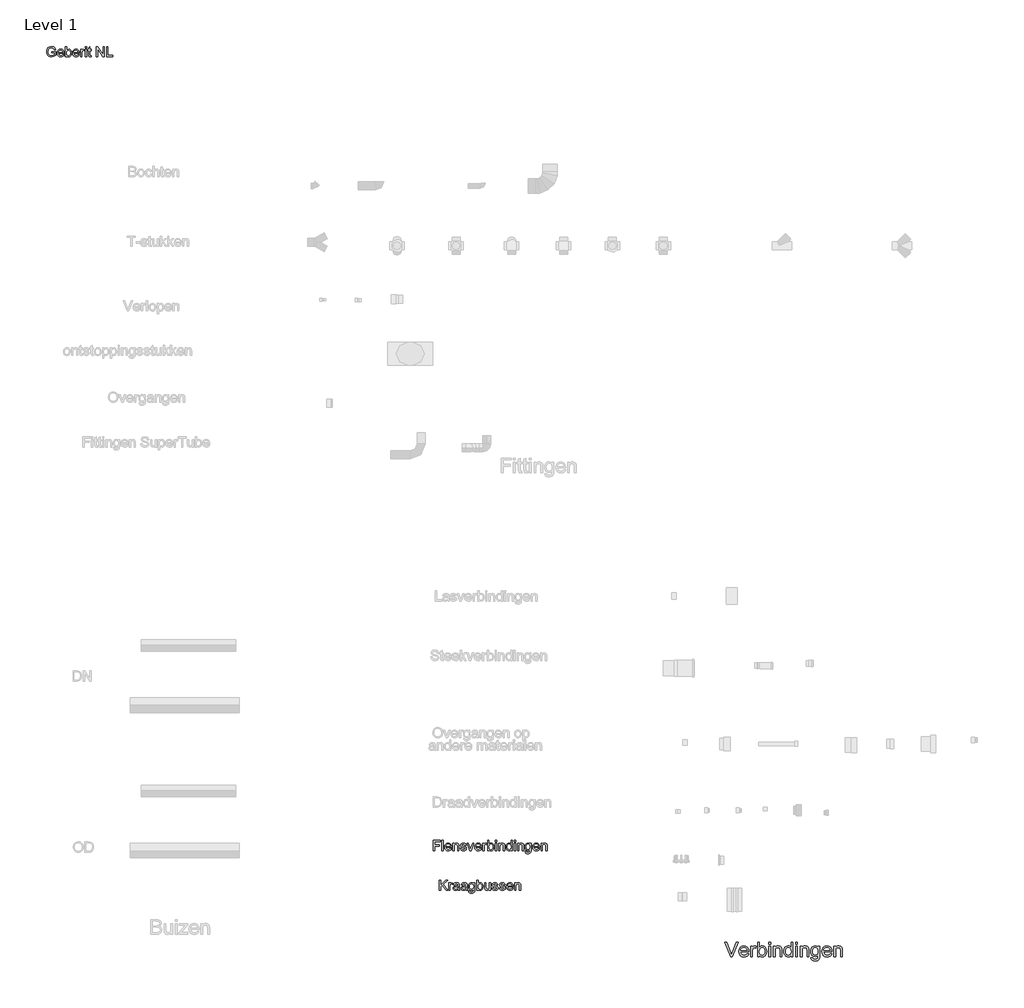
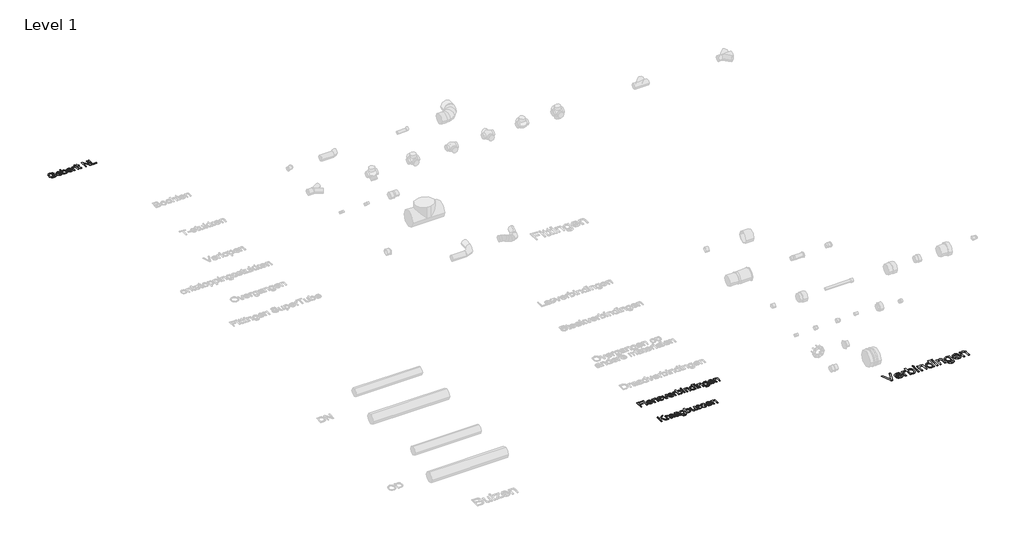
# One storey, part 4 of 9: 4 proxies.
"""IFC4 building model written with IfcOpenShell, lengths in millimetres."""

import ifcopenshell
import ifcopenshell.guid

model = None  # the IFC model being written
_history = None  # IfcOwnerHistory: only IFC2X3 demands one
_inside = {}  # id of a spatial element -> (the spatial element, [elements in it])
_under = {}  # id of a project, library or spatial element -> (it, [spatial elements below it])
_declared = {}  # id of a project -> (the project, [libraries it declares])
_typed = {}  # id of a type object -> (the type object, [elements of that type])
_made_of = {}  # id of a material, layer set ... -> (it, [elements and type objects made of it])


def new_model(schema):
    """Start an empty IFC model of exactly this schema.

    Asked for "IFC4X3", IfcOpenShell would pick the latest addendum, in which some entities
    have other attributes; the version numbers below select the first issue.
    IFC2X3 requires an IfcOwnerHistory on every rooted entity: one is made here for all.
    """
    global model, _history
    if schema == "IFC4X3":
        model = ifcopenshell.file(schema_version=(4, 3, 0, 0))
    else:
        model = ifcopenshell.file(schema=schema)
    _inside.clear()
    _under.clear()
    _declared.clear()
    _typed.clear()
    _made_of.clear()
    _history = None
    if model.schema == "IFC2X3":
        org = make("IfcOrganization", Name="unknown")
        user = make(
            "IfcPersonAndOrganization",
            ThePerson=make("IfcPerson", FamilyName="unknown"),
            TheOrganization=org,
        )
        app = make(
            "IfcApplication",
            ApplicationDeveloper=org,
            Version="unknown",
            ApplicationFullName="unknown",
            ApplicationIdentifier="unknown",
        )
        _history = make(
            "IfcOwnerHistory",
            OwningUser=user,
            OwningApplication=app,
            ChangeAction="ADDED",
            CreationDate=0,
        )
    return model


def make(cls, **values):
    """One entity of the class cls with the attributes given. An attribute that is None is left unset."""
    return model.create_entity(
        cls, **{name: value for name, value in values.items() if value is not None}
    )


def rooted(cls, **values):
    """An entity with a GlobalId (a new one), such as an element, a storey or a relation."""
    return make(cls, GlobalId=ifcopenshell.guid.new(), OwnerHistory=_history, **values)


def si_unit(unit_type, name, prefix=None):
    """IfcSIUnit, for example si_unit("LENGTHUNIT", "METRE", prefix="MILLI")."""
    return make("IfcSIUnit", UnitType=unit_type, Prefix=prefix, Name=name)


def assignment(units):
    """IfcUnitAssignment: the units of a project."""
    return None if units is None else make("IfcUnitAssignment", Units=units)


def point(xyz):
    """IfcCartesianPoint."""
    return None if xyz is None else make("IfcCartesianPoint", Coordinates=xyz)


def direction(xyz):
    """IfcDirection."""
    return None if xyz is None else make("IfcDirection", DirectionRatios=xyz)


def frame(location, z_axis=None, x_axis=None):
    """IfcAxis2Placement3D, a coordinate frame: its origin and axes. An axis left out is left unset."""
    return make(
        "IfcAxis2Placement3D",
        Location=point(location),
        Axis=direction(z_axis),
        RefDirection=direction(x_axis),
    )


def origin():
    """The frame at (0, 0, 0) with its axes left unset."""
    return frame((0.0, 0.0, 0.0))


def origin_with_axes():
    """The frame at (0, 0, 0) with the z axis (0, 0, 1) and the x axis (1, 0, 0) written out."""
    return frame((0.0, 0.0, 0.0), z_axis=(0.0, 0.0, 1.0), x_axis=(1.0, 0.0, 0.0))


def place(relative_to, where):
    """IfcLocalPlacement: puts the frame where relative to a parent placement (None: the world)."""
    return make(
        "IfcLocalPlacement", PlacementRelTo=relative_to, RelativePlacement=where
    )


def context(
    kind, dimensions, precision=None, world=None, true_north=None, identifier=None
):
    """IfcGeometricRepresentationContext, for example the 3D "Model" context."""
    return make(
        "IfcGeometricRepresentationContext",
        ContextIdentifier=identifier,
        ContextType=kind,
        CoordinateSpaceDimension=dimensions,
        Precision=precision,
        WorldCoordinateSystem=world,
        TrueNorth=true_north,
    )


def project(units=None, contexts=None):
    """IfcProject with its units and contexts."""
    return rooted(
        "IfcProject",
        Name="project",
        RepresentationContexts=contexts,
        UnitsInContext=assignment(units),
    )


def spatial(cls, under=None, at=None, **own):
    """A site, building, storey or space (cls), placed at a placement, below another one or the project."""
    s = rooted(cls, ObjectPlacement=at, **own)
    if under is not None:
        _under.setdefault(under.id(), (under, []))[1].append(s)
    return s


def polyline(points):
    """IfcPolyline through the points."""
    return make("IfcPolyline", Points=[point(p) for p in points])


def outline(outer, holes=None, kind="AREA"):
    """IfcArbitraryClosedProfileDef: a profile drawn as a closed curve; with holes, ...WithVoids."""
    if holes is None:
        return make("IfcArbitraryClosedProfileDef", ProfileType=kind, OuterCurve=outer)
    return make(
        "IfcArbitraryProfileDefWithVoids",
        ProfileType=kind,
        OuterCurve=outer,
        InnerCurves=holes,
    )


def extrude(swept, where, along, depth):
    """IfcExtrudedAreaSolid: the profile swept, set in the frame where, extruded along a direction by depth."""
    return make(
        "IfcExtrudedAreaSolid",
        SweptArea=swept,
        Position=where,
        ExtrudedDirection=direction(along),
        Depth=depth,
    )


def shape(context_of_items, identifier, shape_type, items):
    """IfcShapeRepresentation: the items that make up one representation, for example the "Body"."""
    return make(
        "IfcShapeRepresentation",
        ContextOfItems=context_of_items,
        RepresentationIdentifier=identifier,
        RepresentationType=shape_type,
        Items=items,
    )


def made_of(thing, what):
    """Note that an element or type object is made of a material, layer set ...; save() writes the relation."""
    if what is not None:
        _made_of.setdefault(what.id(), (what, []))[1].append(thing)
    return thing


def element(
    cls,
    number,
    at=None,
    inside=None,
    cuts=None,
    type_object=None,
    material=None,
    context=None,
    identifier="Body",
    shape_type=None,
    held_by="IfcProductDefinitionShape",
    body=None,
    shapes=None,
    **own,
):
    """One element of the class cls, such as IfcWall. Its Tag is "e" and its number.

    at: its placement. inside: the storey or other place that contains it. cuts: it is an
    opening in that element (IfcRelVoidsElement). A single representation is given by context,
    identifier, shape_type and body (its items); several are given by shapes. held_by: the class
    of the entity that holds the representations. save() writes the other relations.
    """
    e = rooted(cls, Tag="e%d" % number, ObjectPlacement=at, **own)
    if body is not None:
        shapes = [shape(context, identifier, shape_type, body)]
    if shapes is not None:
        e.Representation = make(held_by, Representations=shapes)
    if inside is not None:
        _inside.setdefault(inside.id(), (inside, []))[1].append(e)
    if cuts is not None:
        rooted(
            "IfcRelVoidsElement", RelatingBuildingElement=cuts, RelatedOpeningElement=e
        )
    if type_object is not None:
        _typed.setdefault(type_object.id(), (type_object, []))[1].append(e)
    return made_of(e, material)


def aggregate(whole, parts):
    """IfcRelAggregates: a whole, such as a stair, and the parts it consists of."""
    return rooted("IfcRelAggregates", RelatingObject=whole, RelatedObjects=parts)


def save(model, path):
    """Write the relations noted so far, then the file.

    IfcRelAggregates (storeys below a building ...), IfcRelContainedInSpatialStructure (elements
    in a storey), IfcRelDefinesByType, IfcRelAssociatesMaterial and IfcRelDeclares: one each for
    every whole, place, type object, material and project.
    """
    for whole, parts in _under.values():
        aggregate(whole, parts)
    for where, things in _inside.values():
        rooted(
            "IfcRelContainedInSpatialStructure",
            RelatedElements=things,
            RelatingStructure=where,
        )
    for kind, things in _typed.values():
        rooted("IfcRelDefinesByType", RelatedObjects=things, RelatingType=kind)
    for what, things in _made_of.values():
        rooted("IfcRelAssociatesMaterial", RelatedObjects=things, RelatingMaterial=what)
    for by, libraries in _declared.values():
        rooted("IfcRelDeclares", RelatingContext=by, RelatedDefinitions=libraries)
    model.write(path)


model = new_model("IFC4")

# Units and contexts
model_context = context("Model", 3, world=origin())
ifc_project = project(units=[si_unit("LENGTHUNIT", "METRE", prefix="MILLI")], contexts=[model_context])

# Site, building, storey
site = spatial("IfcSite", under=ifc_project)
building = spatial("IfcBuilding", under=site)
storey = spatial("IfcBuildingStorey", under=building, Name="Level 1", Elevation=0.0)

# Proxies
placement = place(None, origin())
element("IfcBuildingElementProxy", 1, Name="medium", ObjectType="medium", at=placement, inside=storey, context=model_context, shape_type="SweptSolid", body=[
    extrude(outline(polyline([(5766.6720122, 10891.6402542), (5686.718992, 11092.5528745), (5713.5989031, 11092.5528745), (5767.1134706, 10947.8035721), (5777.9537268, 10915.1847018), (5788.6468301, 10947.8035721), (5842.3085504, 11092.5528745), (5869.1884616, 11092.5528745), (5792.6199556, 10891.6402542), (5766.6720122, 10891.6402542)])), origin_with_axes(), (0.0, 0.0, 1.0), 5.0),
    extrude(outline(polyline([(5992.6987101, 10935.5898898), (6017.3222783, 10932.4506302), (6008.4501908, 10913.8971149), (5994.2928654, 10900.0279636), (5975.169133, 10891.3827368), (5951.3978248, 10888.5009945), (5921.9304769, 10893.4735328), (5899.2566833, 10908.3911477), (5884.7989209, 10932.2850833), (5879.9796668, 10964.1865836), (5884.8479718, 10997.1610731), (5899.452887, 11021.8214295), (5921.8201123, 11037.1988969), (5949.9753477, 11042.3247194), (5977.2537976, 11037.2111596), (5999.0508059, 11021.8704804), (6013.3430214, 10997.259175), (6018.1070932, 10964.3337364), (6017.9599404, 10957.5647077), (5905.0937443, 10957.5647077), (5909.4408832, 10938.7659377), (5919.539244, 10924.9458375), (5934.1135023, 10916.4477634), (5951.8883341, 10913.615072), (5976.5119023, 10918.8635218), (5985.6599012, 10925.6693387), (5992.6987101, 10935.5898898)]), holes=[polyline([(5905.0937443, 10982.6787852), (5992.9930157, 10982.6787852), (5989.5962386, 10995.9470625), (5982.9375745, 11005.438418), (5968.2958711, 11014.2675859), (5949.8772458, 11017.2106418), (5932.9485427, 11014.8623284), (5918.9506328, 11007.8173882), (5909.220154, 10996.8361107), (5905.0937443, 10982.6787852)])]), origin_with_axes(), (0.0, 0.0, 1.0), 5.0),
    extrude(outline(polyline([(6043.2211707, 10891.6402542), (6043.2211707, 11039.1854597), (6065.1959886, 11039.1854597), (6065.1959886, 11017.3577946), (6080.7941852, 11037.468677), (6096.4904836, 11042.3247194), (6108.9984715, 11040.3872075), (6121.7026631, 11034.574672), (6113.3149536, 11012.0602939), (6095.6566178, 11017.2106418), (6081.4563728, 11012.2564976), (6072.4064757, 10998.5222365), (6068.3352483, 10969.1897787), (6068.3352483, 10891.6402542), (6043.2211707, 10891.6402542)])), origin_with_axes(), (0.0, 0.0, 1.0), 5.0),
    extrude(outline(polyline([(6162.513039, 10891.6402542), (6137.3989615, 10891.6402542), (6137.3989615, 11092.5528745), (6162.513039, 11092.5528745), (6162.513039, 11018.0445077), (6180.0977984, 11036.2546665), (6190.4904648, 11040.8072061), (6201.9499889, 11042.3247194), (6227.1131174, 11036.8555404), (6246.6353886, 11021.478073), (6258.6283417, 10997.5657433), (6262.9693492, 10967.6201489), (6258.4750575, 10934.0938364), (6244.9921824, 10909.1514371), (6225.2062624, 10893.6636051), (6201.8028361, 10888.5009945), (6189.9662329, 10890.1656605), (6179.472399, 10895.1596586), (6170.3213344, 10903.4829887), (6162.513039, 10915.1356509), (6162.513039, 10891.6402542)]), holes=[polyline([(6162.513039, 10966.4429265), (6164.2298217, 10945.4981782), (6169.3801696, 10931.3224587), (6182.5380823, 10918.0419187), (6199.6445951, 10913.615072), (6214.1391457, 10916.876959), (6226.5245062, 10926.6626201), (6235.0225803, 10942.9107415), (6237.8552717, 10965.5600097), (6235.1390763, 10988.5403717), (6226.9904901, 11004.6045521), (6214.9914057, 11014.0591194), (6200.7237156, 11017.2106418), (6186.229165, 11013.9487548), (6173.8438045, 11004.1630937), (6165.3457304, 10988.2092779), (6162.513039, 10966.4429265)])]), origin_with_axes(), (0.0, 0.0, 1.0), 5.0),
    extrude(outline(polyline([(6291.2226864, 11067.4387969), (6291.2226864, 11092.5528745), (6316.336764, 11092.5528745), (6316.336764, 11067.4387969), (6291.2226864, 11067.4387969)])), origin_with_axes(), (0.0, 0.0, 1.0), 5.0),
    extrude(outline(polyline([(6291.2226864, 10891.6402542), (6291.2226864, 11039.1854597), (6316.336764, 11039.1854597), (6316.336764, 10891.6402542), (6291.2226864, 10891.6402542)])), origin_with_axes(), (0.0, 0.0, 1.0), 5.0),
    extrude(outline(polyline([(6354.0078803, 10891.6402542), (6354.0078803, 11039.1854597), (6379.1219578, 11039.1854597), (6379.1219578, 11018.584068), (6387.8468925, 11028.970603), (6398.325398, 11036.3895565), (6410.5574743, 11040.8409287), (6424.5431215, 11042.3247194), (6448.2592474, 11037.5422534), (6464.4460552, 11024.9852147), (6471.9753734, 11006.5175385), (6473.2997486, 10982.2373268), (6473.2997486, 10891.6402542), (6448.185671, 10891.6402542), (6448.185671, 10978.8528125), (6445.291666, 11001.072885), (6435.0645465, 11012.8205834), (6417.8231437, 11017.2106418), (6403.1139953, 11014.7458325), (6390.5753506, 11007.3514044), (6381.985306, 10993.0653202), (6379.1219578, 10969.9255427), (6379.1219578, 10891.6402542), (6354.0078803, 10891.6402542)])), origin_with_axes(), (0.0, 0.0, 1.0), 5.0),
    extrude(outline(polyline([(6598.8701363, 10891.6402542), (6598.8701363, 10915.3318546), (6591.3561465, 10903.5933533), (6582.2541328, 10895.2087095), (6571.5640952, 10890.1779232), (6559.2860336, 10888.5009945), (6543.0501749, 10890.9290156), (6528.1877423, 10898.2130791), (6515.606178, 10909.8442815), (6506.2129244, 10925.3137194), (6500.3636007, 10943.9959934), (6498.4138261, 10965.2657041), (6500.2103165, 10986.271766), (6505.5997878, 11005.2422143), (6514.5761084, 11021.0979283), (6527.1331472, 11032.7597875), (6542.3205422, 11039.9334864), (6559.1879317, 11042.3247194), (6571.4751904, 11040.6140681), (6582.3399719, 11035.4821143), (6598.8701363, 11017.7011512), (6598.8701363, 11092.5528745), (6623.9842138, 11092.5528745), (6623.9842138, 10891.6402542), (6598.8701363, 10891.6402542)]), holes=[polyline([(6523.5279036, 10965.363806), (6526.360595, 10942.6470928), (6534.8586691, 10926.4909418), (6547.2072414, 10916.8340395), (6561.5914274, 10913.615072), (6575.9694821, 10916.6868867), (6588.0053547, 10925.9023306), (6596.1539409, 10941.4330822), (6598.8701363, 10963.4508196), (6596.1048899, 10987.5225648), (6587.8091509, 11004.2121447), (6575.46671, 11013.9610176), (6560.5613578, 11017.2106418), (6546.030019, 11014.0897762), (6534.1229051, 11004.7271795), (6526.176654, 10988.6446049), (6523.5279036, 10965.363806)])]), origin_with_axes(), (0.0, 0.0, 1.0), 5.0),
    extrude(outline(polyline([(6661.6553301, 11067.4387969), (6661.6553301, 11092.5528745), (6686.7694076, 11092.5528745), (6686.7694076, 11067.4387969), (6661.6553301, 11067.4387969)])), origin_with_axes(), (0.0, 0.0, 1.0), 5.0),
    extrude(outline(polyline([(6661.6553301, 10891.6402542), (6661.6553301, 11039.1854597), (6686.7694076, 11039.1854597), (6686.7694076, 10891.6402542), (6661.6553301, 10891.6402542)])), origin_with_axes(), (0.0, 0.0, 1.0), 5.0),
    extrude(outline(polyline([(6724.4405239, 10891.6402542), (6724.4405239, 11039.1854597), (6749.5546015, 11039.1854597), (6749.5546015, 11018.584068), (6758.2795361, 11028.970603), (6768.7580416, 11036.3895565), (6780.990118, 11040.8409287), (6794.9757652, 11042.3247194), (6818.6918911, 11037.5422534), (6834.8786989, 11024.9852147), (6842.4080171, 11006.5175385), (6843.7323923, 10982.2373268), (6843.7323923, 10891.6402542), (6818.6183147, 10891.6402542), (6818.6183147, 10978.8528125), (6815.7243097, 11001.072885), (6805.4971902, 11012.8205834), (6788.2557874, 11017.2106418), (6773.5466389, 11014.7458325), (6761.0079943, 11007.3514044), (6752.4179497, 10993.0653202), (6749.5546015, 10969.9255427), (6749.5546015, 10891.6402542), (6724.4405239, 10891.6402542)])), origin_with_axes(), (0.0, 0.0, 1.0), 5.0),
    extrude(outline(polyline([(6871.9857295, 10879.0832154), (6897.099807, 10875.9439557), (6899.8711847, 10868.0958065), (6905.2422618, 10862.7002039), (6915.8004751, 10858.5063491), (6929.6205754, 10857.1083975), (6944.3603807, 10858.6902901), (6955.3232641, 10863.4359679), (6962.9261587, 10871.0388624), (6967.5859973, 10881.1924055), (6969.3027799, 10910.4758123), (6951.6199187, 10896.3491437), (6930.0620338, 10891.6402542), (6904.1692727, 10897.1216959), (6884.8615993, 10913.5660211), (6872.8502522, 10937.6745545), (6868.8464698, 10966.1486209), (6870.6429602, 10986.4250502), (6876.0324314, 11005.070536), (6884.8248111, 11020.8710677), (6896.8300269, 11032.6126347), (6911.6372772, 11039.8966982), (6928.8357605, 11042.3247194), (6951.239774, 11036.8310149), (6969.3027799, 11020.3499015), (6969.3027799, 11039.1854597), (6994.4168575, 11039.1854597), (6994.4168575, 10911.8001875), (6992.7000748, 10882.388022), (6987.5497269, 10863.0190349), (6978.6776394, 10850.1738219), (6965.7956383, 10840.3329786), (6949.1857662, 10834.0789846), (6929.1300661, 10831.99432), (6905.763428, 10834.9312446), (6887.3631969, 10843.7420184), (6875.5603162, 10858.4511668), (6871.9857295, 10879.0832154)]), holes=[polyline([(6893.9605473, 10967.8654036), (6896.6399545, 10944.8298593), (6904.6781761, 10928.9925394), (6916.7630997, 10919.8138836), (6931.5826127, 10916.7543317), (6946.2917611, 10919.7954895), (6958.4379983, 10928.918963), (6966.5865845, 10944.5539478), (6969.3027799, 10967.1296396), (6966.5068768, 10988.9021223), (6958.1191673, 11004.5800267), (6945.7951204, 11014.052988), (6931.1902052, 11017.2106418), (6916.8489388, 11014.102039), (6904.8253289, 11004.7762304), (6896.6767427, 10989.331318), (6893.9605473, 10967.8654036)])]), origin_with_axes(), (0.0, 0.0, 1.0), 5.0),
    extrude(outline(polyline([(7135.389238, 10935.5898898), (7160.0128062, 10932.4506302), (7151.1407188, 10913.8971149), (7136.9833933, 10900.0279636), (7117.859661, 10891.3827368), (7094.0883527, 10888.5009945), (7064.6210049, 10893.4735328), (7041.9472113, 10908.3911477), (7027.4894488, 10932.2850833), (7022.6701947, 10964.1865836), (7027.5384998, 10997.1610731), (7042.143415, 11021.8214295), (7064.5106403, 11037.1988969), (7092.6658757, 11042.3247194), (7119.9443256, 11037.2111596), (7141.7413338, 11021.8704804), (7156.0335493, 10997.259175), (7160.7976212, 10964.3337364), (7160.6504684, 10957.5647077), (7047.7842722, 10957.5647077), (7052.1314112, 10938.7659377), (7062.2297719, 10924.9458375), (7076.8040303, 10916.4477634), (7094.578862, 10913.615072), (7119.2024302, 10918.8635218), (7128.3504292, 10925.6693387), (7135.389238, 10935.5898898)]), holes=[polyline([(7047.7842722, 10982.6787852), (7135.6835436, 10982.6787852), (7132.2867665, 10995.9470625), (7125.6281024, 11005.438418), (7110.986399, 11014.2675859), (7092.5677738, 11017.2106418), (7075.6390706, 11014.8623284), (7061.6411607, 11007.8173882), (7051.910682, 10996.8361107), (7047.7842722, 10982.6787852)])]), origin_with_axes(), (0.0, 0.0, 1.0), 5.0),
    extrude(outline(polyline([(7185.9116987, 10891.6402542), (7185.9116987, 11039.1854597), (7211.0257762, 11039.1854597), (7211.0257762, 11018.584068), (7219.7507109, 11028.970603), (7230.2292164, 11036.3895565), (7242.4612927, 11040.8409287), (7256.4469399, 11042.3247194), (7280.1630659, 11037.5422534), (7296.3498737, 11024.9852147), (7303.8791918, 11006.5175385), (7305.203567, 10982.2373268), (7305.203567, 10891.6402542), (7280.0894895, 10891.6402542), (7280.0894895, 10978.8528125), (7277.1954844, 11001.072885), (7266.968365, 11012.8205834), (7249.7269621, 11017.2106418), (7235.0178137, 11014.7458325), (7222.479169, 11007.3514044), (7213.8891244, 10993.0653202), (7211.0257762, 10969.9255427), (7211.0257762, 10891.6402542), (7185.9116987, 10891.6402542)])), origin_with_axes(), (0.0, 0.0, 1.0), 5.0),
])
element("IfcBuildingElementProxy", 2, Name="small", ObjectType="small", at=placement, inside=storey, context=model_context, shape_type="SweptSolid", body=[
    extrude(outline(polyline([(-3572.3545095, 23327.6639594), (-3572.3545095, 23344.8947287), (-3516.3545095, 23344.8947287), (-3516.3545095, 23293.3706902), (-3544.0011441, 23277.1158825), (-3573.2295095, 23271.6639594), (-3592.5594374, 23273.8304258), (-3610.0299903, 23280.3298248), (-3624.5432114, 23290.9349931), (-3635.0011441, 23305.4187671), (-3641.3238604, 23322.7925652), (-3643.4314326, 23342.0678056), (-3641.3322739, 23361.4818681), (-3635.0347979, 23379.5413633), (-3624.799822, 23394.6898008), (-3610.8881633, 23405.3706902), (-3593.9434518, 23411.7060267), (-3574.6093172, 23413.8178056), (-3547.6525864, 23408.921171), (-3528.7559518, 23395.2913633), (-3518.3400864, 23372.4908825), (-3534.2247018, 23368.014921), (-3542.0828749, 23383.9500171), (-3555.5107595, 23393.1375171), (-3574.8785479, 23396.5870363), (-3596.9386441, 23392.8682863), (-3611.9482595, 23383.108671), (-3620.8160479, 23369.8322287), (-3626.2006633, 23342.7745363), (-3624.581072, 23326.2967719), (-3619.7222979, 23312.7384787), (-3611.7715768, 23302.1964113), (-3600.8761441, 23294.7673248), (-3574.6093172, 23288.8947287), (-3551.0347979, 23293.3202094), (-3533.5852787, 23302.7601133), (-3533.5852787, 23327.6639594), (-3572.3545095, 23327.6639594)])), origin_with_axes(), (0.0, 0.0, 1.0), 5.0),
    extrude(outline(polyline([(-3419.6333556, 23303.9716517), (-3402.7391249, 23301.8178056), (-3408.8262643, 23289.0882383), (-3418.5396056, 23279.5726133), (-3431.6603989, 23273.6411229), (-3447.9698941, 23271.6639594), (-3468.1874422, 23275.0756181), (-3483.7439326, 23285.310594), (-3493.6634037, 23301.7042238), (-3496.9698941, 23323.591844), (-3493.6297499, 23346.2156421), (-3483.6093172, 23363.1351133), (-3468.2631633, 23373.685594), (-3448.9458556, 23377.202421), (-3430.2301104, 23373.6940075), (-3415.2751826, 23363.1687671), (-3405.4692931, 23346.2829498), (-3402.2006633, 23323.6928056), (-3402.3016249, 23319.0485748), (-3479.7391249, 23319.0485748), (-3476.7565528, 23306.1507383), (-3469.8280672, 23296.6687671), (-3459.8286681, 23290.8382383), (-3447.6333556, 23288.8947287), (-3430.7391249, 23292.4956902), (-3419.6333556, 23303.9716517)]), holes=[polyline([(-3479.7391249, 23336.279344), (-3419.4314326, 23336.279344), (-3426.330471, 23351.8947287), (-3436.3761441, 23357.952421), (-3449.0131633, 23359.9716517), (-3460.627947, 23358.3604738), (-3470.2319133, 23353.5269402), (-3476.9079951, 23345.9926854), (-3479.7391249, 23336.279344)])]), origin_with_axes(), (0.0, 0.0, 1.0), 5.0),
    extrude(outline(polyline([(-3367.7391249, 23273.8178056), (-3384.9698941, 23273.8178056), (-3384.9698941, 23411.6639594), (-3367.7391249, 23411.6639594), (-3367.7391249, 23360.5437671), (-3355.674221, 23373.0377575), (-3340.6814326, 23377.202421), (-3323.4170095, 23373.4500171), (-3310.0227787, 23362.8995363), (-3301.7944133, 23346.4932863), (-3298.8160479, 23325.9476133), (-3301.8995816, 23302.9452094), (-3311.1501826, 23285.8322287), (-3324.7253028, 23275.2060267), (-3340.7823941, 23271.6639594), (-3356.1033076, 23276.232469), (-3367.7391249, 23289.9379979), (-3367.7391249, 23273.8178056)]), holes=[polyline([(-3367.7391249, 23325.139921), (-3366.5612403, 23310.7697287), (-3363.0275864, 23301.0437671), (-3353.9999422, 23291.9319883), (-3342.2631633, 23288.8947287), (-3332.3184518, 23291.1327094), (-3323.8208556, 23297.8466517), (-3317.9903268, 23308.9944883), (-3316.0468172, 23324.5341517), (-3317.9103989, 23340.3009787), (-3323.5011441, 23351.3226133), (-3331.7337162, 23357.8093921), (-3341.5227787, 23359.9716517), (-3351.4674903, 23357.733671), (-3359.9650864, 23351.0197287), (-3365.7956153, 23340.0738152), (-3367.7391249, 23325.139921)])]), origin_with_axes(), (0.0, 0.0, 1.0), 5.0),
    extrude(outline(polyline([(-3208.5564326, 23303.9716517), (-3191.6622018, 23301.8178056), (-3197.7493412, 23289.0882383), (-3207.4626826, 23279.5726133), (-3220.5834758, 23273.6411229), (-3236.892971, 23271.6639594), (-3257.1105191, 23275.0756181), (-3272.6670095, 23285.310594), (-3282.5864806, 23301.7042238), (-3285.892971, 23323.591844), (-3282.5528268, 23346.2156421), (-3272.5323941, 23363.1351133), (-3257.1862403, 23373.685594), (-3237.8689326, 23377.202421), (-3219.1531874, 23373.6940075), (-3204.1982595, 23363.1687671), (-3194.3923701, 23346.2829498), (-3191.1237403, 23323.6928056), (-3191.2247018, 23319.0485748), (-3268.6622018, 23319.0485748), (-3265.6796297, 23306.1507383), (-3258.7511441, 23296.6687671), (-3248.7517451, 23290.8382383), (-3236.5564326, 23288.8947287), (-3219.6622018, 23292.4956902), (-3208.5564326, 23303.9716517)]), holes=[polyline([(-3268.6622018, 23336.279344), (-3208.3545095, 23336.279344), (-3215.2535479, 23351.8947287), (-3225.299221, 23357.952421), (-3237.9362403, 23359.9716517), (-3249.5510239, 23358.3604738), (-3259.1549903, 23353.5269402), (-3265.831072, 23345.9926854), (-3268.6622018, 23336.279344)])]), origin_with_axes(), (0.0, 0.0, 1.0), 5.0),
    extrude(outline(polyline([(-3173.892971, 23273.8178056), (-3173.892971, 23375.0485748), (-3158.8160479, 23375.0485748), (-3158.8160479, 23360.0726133), (-3148.1141249, 23373.8706902), (-3137.3448941, 23377.202421), (-3120.0468172, 23371.8851133), (-3125.8016249, 23356.4379979), (-3137.9170095, 23359.9716517), (-3147.6597979, 23356.5726133), (-3153.8689326, 23347.1495363), (-3156.6622018, 23327.0245363), (-3156.6622018, 23273.8178056), (-3173.892971, 23273.8178056)])), origin_with_axes(), (0.0, 0.0, 1.0), 5.0),
    extrude(outline(polyline([(-3109.2775864, 23273.8178056), (-3109.2775864, 23375.0485748), (-3092.0468172, 23375.0485748), (-3092.0468172, 23273.8178056), (-3109.2775864, 23273.8178056)])), origin_with_axes(), (0.0, 0.0, 1.0), 5.0),
    extrude(outline(polyline([(-3109.2775864, 23394.4331902), (-3109.2775864, 23411.6639594), (-3092.0468172, 23411.6639594), (-3092.0468172, 23394.4331902), (-3109.2775864, 23394.4331902)])), origin_with_axes(), (0.0, 0.0, 1.0), 5.0),
    extrude(outline(polyline([(-3029.5852787, 23288.1879979), (-3027.4314326, 23273.3129979), (-3040.3208556, 23271.6639594), (-3054.7583556, 23274.5245363), (-3061.9602787, 23282.029344), (-3064.0468172, 23301.5822287), (-3064.0468172, 23357.8178056), (-3076.9698941, 23357.8178056), (-3076.9698941, 23375.0485748), (-3064.0468172, 23375.0485748), (-3064.0468172, 23399.6495363), (-3046.8160479, 23409.779344), (-3046.8160479, 23375.0485748), (-3029.5852787, 23375.0485748), (-3029.5852787, 23357.8178056), (-3046.8160479, 23357.8178056), (-3046.8160479, 23302.0870363), (-3045.9073941, 23293.202421), (-3042.9626826, 23290.0557863), (-3037.0900864, 23288.8947287), (-3029.5852787, 23288.1879979)])), origin_with_axes(), (0.0, 0.0, 1.0), 5.0),
    extrude(outline(polyline([(-2956.3545095, 23273.8178056), (-2956.3545095, 23411.6639594), (-2937.9122018, 23411.6639594), (-2865.892971, 23302.4572287), (-2865.892971, 23411.6639594), (-2848.6622018, 23411.6639594), (-2848.6622018, 23273.8178056), (-2867.1045095, 23273.8178056), (-2939.1237403, 23383.0581902), (-2939.1237403, 23273.8178056), (-2956.3545095, 23273.8178056)])), origin_with_axes(), (0.0, 0.0, 1.0), 5.0),
    extrude(outline(polyline([(-2818.5083556, 23273.8178056), (-2818.5083556, 23411.6639594), (-2801.2775864, 23411.6639594), (-2801.2775864, 23291.0485748), (-2732.3545095, 23291.0485748), (-2732.3545095, 23273.8178056), (-2818.5083556, 23273.8178056)])), origin_with_axes(), (0.0, 0.0, 1.0), 5.0),
])
element("IfcBuildingElementProxy", 3, Name="small", ObjectType="small", at=placement, inside=storey, context=model_context, shape_type="SweptSolid", body=[
    extrude(outline(polyline([(1677.6802707, 12351.2283739), (1677.6802707, 12491.8672082), (1772.1719874, 12491.8672082), (1772.1719874, 12474.2873539), (1695.260125, 12474.2873539), (1695.260125, 12432.5352), (1761.1845785, 12432.5352), (1761.1845785, 12414.9553457), (1695.260125, 12414.9553457), (1695.260125, 12351.2283739), (1677.6802707, 12351.2283739)])), origin_with_axes(), (0.0, 0.0, 1.0), 5.0),
    extrude(outline(polyline([(1794.1468053, 12351.2283739), (1794.1468053, 12491.8672082), (1811.7266595, 12491.8672082), (1811.7266595, 12351.2283739), (1794.1468053, 12351.2283739)])), origin_with_axes(), (0.0, 0.0, 1.0), 5.0),
    extrude(outline(polyline([(1910.4073259, 12381.9931189), (1927.6438237, 12379.7956371), (1921.4333625, 12366.8081764), (1911.5232347, 12357.0997706), (1898.136622, 12351.0481118), (1881.4967062, 12349.0308922), (1860.8695627, 12352.511669), (1844.9979072, 12362.9539994), (1834.8774735, 12379.6797543), (1831.5039956, 12402.0108046), (1834.9118092, 12425.0929472), (1845.1352498, 12442.3551967), (1860.7923075, 12453.1194239), (1880.5009723, 12456.7074996), (1899.5958872, 12453.1280078), (1914.853793, 12442.3895324), (1924.8583438, 12425.1616185), (1928.1931941, 12402.1138115), (1928.0901872, 12397.3754914), (1849.0838499, 12397.3754914), (1852.1268471, 12384.2163525), (1859.1956997, 12374.5422823), (1869.3976805, 12368.5936304), (1881.8400627, 12366.6107464), (1899.0765605, 12370.2846613), (1910.4073259, 12381.9931189)]), holes=[polyline([(1849.0838499, 12414.9553457), (1910.6133398, 12414.9553457), (1903.574531, 12430.8870886), (1893.3253386, 12437.0675062), (1880.432301, 12439.1276453), (1868.5822088, 12437.4838259), (1858.7836718, 12432.5523678), (1851.9723367, 12424.8654735), (1849.0838499, 12414.9553457)])]), origin_with_axes(), (0.0, 0.0, 1.0), 5.0),
    extrude(outline(polyline([(1945.7730484, 12351.2283739), (1945.7730484, 12454.5100178), (1963.3529027, 12454.5100178), (1963.3529027, 12440.0890436), (1976.7953108, 12452.5528856), (1995.1477172, 12456.7074996), (2011.7490054, 12453.3597734), (2023.0797709, 12444.5698463), (2028.3502936, 12431.642473), (2029.2773562, 12414.6463248), (2029.2773562, 12351.2283739), (2011.6975019, 12351.2283739), (2011.6975019, 12412.2771648), (2009.6716984, 12427.8312155), (2002.5127148, 12436.0546044), (1990.4437328, 12439.1276453), (1980.1473289, 12437.4022788), (1971.3702776, 12432.2261791), (1965.3572464, 12422.2259202), (1963.3529027, 12406.0280759), (1963.3529027, 12351.2283739), (1945.7730484, 12351.2283739)])), origin_with_axes(), (0.0, 0.0, 1.0), 5.0),
    extrude(outline(polyline([(2046.8572105, 12381.9931189), (2064.4370648, 12384.1906007), (2067.2096687, 12376.6710927), (2072.5746145, 12371.1430526), (2091.218874, 12366.6107464), (2109.1420848, 12370.7653604), (2114.9791458, 12380.5166859), (2109.1077492, 12388.413886), (2091.0128601, 12393.4268913), (2064.5400717, 12402.0279724), (2052.9861245, 12412.0711509), (2049.0546923, 12426.2517755), (2052.2135723, 12439.3508271), (2060.8318212, 12449.3596699), (2072.0080762, 12454.5615213), (2087.1329313, 12456.7074996), (2108.5240431, 12453.2567665), (2122.1209616, 12443.9174689), (2128.1640365, 12428.1402364), (2110.5841822, 12425.9427546), (2103.9745691, 12435.6425766), (2088.5063574, 12439.1276453), (2071.6818875, 12435.797087), (2066.6345466, 12428.0372294), (2068.7290214, 12422.9212172), (2075.2871311, 12419.0412884), (2090.429154, 12415.2987022), (2116.2323971, 12407.0238099), (2128.21554, 12397.6501766), (2132.5590001, 12382.3708111), (2127.4601556, 12365.5463412), (2112.7473284, 12353.3400166), (2090.9785244, 12349.0308922), (2073.2527436, 12351.1081992), (2060.3167864, 12357.3401202), (2051.6813697, 12367.6579839), (2046.8572105, 12381.9931189)])), origin_with_axes(), (0.0, 0.0, 1.0), 5.0),
    extrude(outline(polyline([(2177.676048, 12351.2283739), (2141.3489272, 12454.5100178), (2159.9588511, 12454.5100178), (2181.9680046, 12392.6371713), (2188.5947856, 12371.8297657), (2195.084224, 12391.4697591), (2217.2307201, 12454.5100178), (2235.840644, 12454.5100178), (2199.9598867, 12351.2283739), (2177.676048, 12351.2283739)])), origin_with_axes(), (0.0, 0.0, 1.0), 5.0),
    extrude(outline(polyline([(2323.5339014, 12381.9931189), (2340.7703992, 12379.7956371), (2334.559938, 12366.8081764), (2324.6498101, 12357.0997706), (2311.2631975, 12351.0481118), (2294.6232817, 12349.0308922), (2273.9961382, 12352.511669), (2258.1244827, 12362.9539994), (2248.004049, 12379.6797543), (2244.6305711, 12402.0108046), (2248.0383846, 12425.0929472), (2258.2618253, 12442.3551967), (2273.918883, 12453.1194239), (2293.6275478, 12456.7074996), (2312.7224627, 12453.1280078), (2327.9803685, 12442.3895324), (2337.9849193, 12425.1616185), (2341.3197696, 12402.1138115), (2341.2167627, 12397.3754914), (2262.2104254, 12397.3754914), (2265.2534226, 12384.2163525), (2272.3222751, 12374.5422823), (2282.524256, 12368.5936304), (2294.9666382, 12366.6107464), (2312.203136, 12370.2846613), (2323.5339014, 12381.9931189)]), holes=[polyline([(2262.2104254, 12414.9553457), (2323.7399153, 12414.9553457), (2316.7011065, 12430.8870886), (2306.4519141, 12437.0675062), (2293.5588765, 12439.1276453), (2281.7087843, 12437.4838259), (2271.9102473, 12432.5523678), (2265.0989122, 12424.8654735), (2262.2104254, 12414.9553457)])]), origin_with_axes(), (0.0, 0.0, 1.0), 5.0),
    extrude(outline(polyline([(2358.8996239, 12351.2283739), (2358.8996239, 12454.5100178), (2374.2819964, 12454.5100178), (2374.2819964, 12439.2306523), (2385.200734, 12453.30827), (2396.1881429, 12456.7074996), (2413.8366685, 12451.2824664), (2407.9652719, 12435.5224018), (2395.6044368, 12439.1276453), (2385.6642653, 12435.6597444), (2379.3293374, 12426.0457616), (2376.4794782, 12405.5130412), (2376.4794782, 12351.2283739), (2358.8996239, 12351.2283739)])), origin_with_axes(), (0.0, 0.0, 1.0), 5.0),
    extrude(outline(polyline([(2442.4039317, 12351.2283739), (2424.8240774, 12351.2283739), (2424.8240774, 12491.8672082), (2442.4039317, 12491.8672082), (2442.4039317, 12439.7113514), (2454.7132633, 12452.4584626), (2470.0097966, 12456.7074996), (2487.6239866, 12452.8790743), (2501.2895764, 12442.1148471), (2509.6846435, 12425.3762163), (2512.7233488, 12404.4143003), (2509.5773446, 12380.9458815), (2500.139332, 12363.486202), (2486.289188, 12352.6447196), (2469.9067897, 12349.0308922), (2454.2754837, 12353.691957), (2442.4039317, 12367.6751517), (2442.4039317, 12351.2283739)]), holes=[polyline([(2442.4039317, 12403.5902446), (2443.6056796, 12388.9289208), (2447.2109231, 12379.0059171), (2456.421462, 12369.7095391), (2468.3960209, 12366.6107464), (2478.5422064, 12368.8940674), (2487.2119587, 12375.7440301), (2493.1606106, 12387.1177151), (2495.1434945, 12402.9722028), (2493.2421578, 12419.0584562), (2487.5381474, 12430.3033825), (2479.1387883, 12436.9215796), (2469.1514053, 12439.1276453), (2459.0052199, 12436.8443244), (2450.3354675, 12429.9943617), (2444.3868157, 12418.8266906), (2442.4039317, 12403.5902446)])]), origin_with_axes(), (0.0, 0.0, 1.0), 5.0),
    extrude(outline(polyline([(2532.5006849, 12474.2873539), (2532.5006849, 12491.8672082), (2550.0805391, 12491.8672082), (2550.0805391, 12474.2873539), (2532.5006849, 12474.2873539)])), origin_with_axes(), (0.0, 0.0, 1.0), 5.0),
    extrude(outline(polyline([(2532.5006849, 12351.2283739), (2532.5006849, 12454.5100178), (2550.0805391, 12454.5100178), (2550.0805391, 12351.2283739), (2532.5006849, 12351.2283739)])), origin_with_axes(), (0.0, 0.0, 1.0), 5.0),
    extrude(outline(polyline([(2576.4503206, 12351.2283739), (2576.4503206, 12454.5100178), (2594.0301748, 12454.5100178), (2594.0301748, 12440.0890436), (2607.4725829, 12452.5528856), (2625.8249894, 12456.7074996), (2642.4262776, 12453.3597734), (2653.757043, 12444.5698463), (2659.0275657, 12431.642473), (2659.9546284, 12414.6463248), (2659.9546284, 12351.2283739), (2642.3747741, 12351.2283739), (2642.3747741, 12412.2771648), (2640.3489706, 12427.8312155), (2633.1899869, 12436.0546044), (2621.121005, 12439.1276453), (2610.8246011, 12437.4022788), (2602.0475498, 12432.2261791), (2596.0345186, 12422.2259202), (2594.0301748, 12406.0280759), (2594.0301748, 12351.2283739), (2576.4503206, 12351.2283739)])), origin_with_axes(), (0.0, 0.0, 1.0), 5.0),
    extrude(outline(polyline([(2747.8538998, 12351.2283739), (2747.8538998, 12367.8124943), (2736.2226973, 12353.7262927), (2720.1450279, 12349.0308922), (2708.7799268, 12350.730507), (2698.3762239, 12355.8293514), (2689.569129, 12363.9711931), (2682.9938515, 12374.7997997), (2677.5344826, 12402.7661889), (2682.5646558, 12430.749746), (2688.8480803, 12441.8487458), (2697.6380074, 12450.0120473), (2708.2691839, 12455.0336365), (2720.0763566, 12456.7074996), (2736.2827847, 12451.917676), (2747.8538998, 12439.4710019), (2747.8538998, 12491.8672082), (2765.433754, 12491.8672082), (2765.433754, 12351.2283739), (2747.8538998, 12351.2283739)]), holes=[polyline([(2695.1143369, 12402.8348602), (2697.0972209, 12386.933161), (2703.0458727, 12375.6238553), (2711.6898734, 12368.8640237), (2721.7588036, 12366.6107464), (2731.8234418, 12368.7610167), (2740.2485526, 12375.2118275), (2745.952563, 12386.0833536), (2747.8538998, 12401.4957698), (2745.9182273, 12418.3459914), (2740.11121, 12430.0286973), (2731.4715014, 12436.8529083), (2721.0377549, 12439.1276453), (2710.8658177, 12436.9430394), (2702.5308379, 12430.3892217), (2696.9684622, 12419.1314195), (2695.1143369, 12402.8348602)])]), origin_with_axes(), (0.0, 0.0, 1.0), 5.0),
    extrude(outline(polyline([(2791.8035354, 12351.2283739), (2791.8035354, 12454.5100178), (2809.3833897, 12454.5100178), (2809.3833897, 12351.2283739), (2791.8035354, 12351.2283739)])), origin_with_axes(), (0.0, 0.0, 1.0), 5.0),
    extrude(outline(polyline([(2791.8035354, 12474.2873539), (2791.8035354, 12491.8672082), (2809.3833897, 12491.8672082), (2809.3833897, 12474.2873539), (2791.8035354, 12474.2873539)])), origin_with_axes(), (0.0, 0.0, 1.0), 5.0),
    extrude(outline(polyline([(2835.7531711, 12351.2283739), (2835.7531711, 12454.5100178), (2853.3330254, 12454.5100178), (2853.3330254, 12440.0890436), (2866.7754335, 12452.5528856), (2885.12784, 12456.7074996), (2901.7291281, 12453.3597734), (2913.0598936, 12444.5698463), (2918.3304163, 12431.642473), (2919.2574789, 12414.6463248), (2919.2574789, 12351.2283739), (2901.6776247, 12351.2283739), (2901.6776247, 12412.2771648), (2899.6518211, 12427.8312155), (2892.4928375, 12436.0546044), (2880.4238555, 12439.1276453), (2870.1274516, 12437.4022788), (2861.3504004, 12432.2261791), (2855.3373691, 12422.2259202), (2853.3330254, 12406.0280759), (2853.3330254, 12351.2283739), (2835.7531711, 12351.2283739)])), origin_with_axes(), (0.0, 0.0, 1.0), 5.0),
    extrude(outline(polyline([(2939.034815, 12342.4384468), (2956.6146693, 12340.240965), (2962.3143877, 12330.9703387), (2979.3792071, 12327.0560743), (2997.3710893, 12331.4853735), (3005.9550025, 12343.9148799), (3007.1567503, 12364.4132647), (2994.7787475, 12354.5245966), (2979.688228, 12351.2283739), (2961.5632953, 12355.0653832), (2948.0479239, 12366.5764108), (2939.6399809, 12383.4523842), (2936.8373332, 12403.3842307), (2941.8675064, 12430.6295712), (2948.0221721, 12441.6899434), (2956.4258232, 12449.9090403), (2966.7908984, 12455.0078848), (2978.8298367, 12456.7074996), (2994.5126462, 12452.8619065), (3007.1567503, 12441.3251271), (3007.1567503, 12454.5100178), (3024.7366046, 12454.5100178), (3024.7366046, 12365.3403273), (3023.5348568, 12344.7518114), (3019.9296132, 12331.1935205), (3013.719152, 12322.2018714), (3004.7017511, 12315.313281), (2993.0748407, 12310.9354853), (2979.0358506, 12309.47622), (2962.679204, 12311.5320673), (2949.7990422, 12317.6996089), (2941.5370257, 12327.9960128), (2939.034815, 12342.4384468)]), holes=[polyline([(2954.4171875, 12404.5859785), (2956.2927725, 12388.4610975), (2961.9195277, 12377.3749736), (2970.3789741, 12370.9499146), (2980.7526333, 12368.8082282), (2991.0490372, 12370.9370387), (2999.5514032, 12377.3234701), (3005.2554135, 12388.2679595), (3007.1567503, 12404.0709437), (3005.1996181, 12419.3116817), (2999.3282215, 12430.2862147), (2990.7013887, 12436.9172877), (2980.477948, 12439.1276453), (2970.4390615, 12436.9516233), (2962.0225346, 12430.4235573), (2956.3185243, 12419.6121186), (2954.4171875, 12404.5859785)])]), origin_with_axes(), (0.0, 0.0, 1.0), 5.0),
    extrude(outline(polyline([(3123.417271, 12381.9931189), (3140.6537687, 12379.7956371), (3134.4433075, 12366.8081764), (3124.5331797, 12357.0997706), (3111.146567, 12351.0481118), (3094.5066513, 12349.0308922), (3073.8795078, 12352.511669), (3058.0078522, 12362.9539994), (3047.8874186, 12379.6797543), (3044.5139407, 12402.0108046), (3047.9217542, 12425.0929472), (3058.1451949, 12442.3551967), (3073.8022526, 12453.1194239), (3093.5109173, 12456.7074996), (3112.6058323, 12453.1280078), (3127.863738, 12442.3895324), (3137.8682889, 12425.1616185), (3141.2031392, 12402.1138115), (3141.1001322, 12397.3754914), (3062.0937949, 12397.3754914), (3065.1367922, 12384.2163525), (3072.2056447, 12374.5422823), (3082.4076256, 12368.5936304), (3094.8500078, 12366.6107464), (3112.0865055, 12370.2846613), (3123.417271, 12381.9931189)]), holes=[polyline([(3062.0937949, 12414.9553457), (3123.6232849, 12414.9553457), (3116.5844761, 12430.8870886), (3106.3352837, 12437.0675062), (3093.442246, 12439.1276453), (3081.5921538, 12437.4838259), (3071.7936169, 12432.5523678), (3064.9822817, 12424.8654735), (3062.0937949, 12414.9553457)])]), origin_with_axes(), (0.0, 0.0, 1.0), 5.0),
    extrude(outline(polyline([(3158.7829935, 12351.2283739), (3158.7829935, 12454.5100178), (3176.3628477, 12454.5100178), (3176.3628477, 12440.0890436), (3189.8052558, 12452.5528856), (3208.1576623, 12456.7074996), (3224.7589505, 12453.3597734), (3236.0897159, 12444.5698463), (3241.3602386, 12431.642473), (3242.2873013, 12414.6463248), (3242.2873013, 12351.2283739), (3224.707447, 12351.2283739), (3224.707447, 12412.2771648), (3222.6816435, 12427.8312155), (3215.5226598, 12436.0546044), (3203.4536779, 12439.1276453), (3193.157274, 12437.4022788), (3184.3802227, 12432.2261791), (3178.3671915, 12422.2259202), (3176.3628477, 12406.0280759), (3176.3628477, 12351.2283739), (3158.7829935, 12351.2283739)])), origin_with_axes(), (0.0, 0.0, 1.0), 5.0),
])
element("IfcBuildingElementProxy", 4, Name="small", ObjectType="small", at=placement, inside=storey, context=model_context, shape_type="SweptSolid", body=[
    extrude(outline(polyline([(1759.4408863, 11806.1576029), (1759.4408863, 11946.7964371), (1777.0207406, 11946.7964371), (1777.0207406, 11877.9534531), (1849.1256117, 11946.7964371), (1873.7099391, 11946.7964371), (1813.1761831, 11888.9751977), (1875.9074209, 11806.1576029), (1854.4133022, 11806.1576029), (1800.7123411, 11877.0950618), (1777.0207406, 11854.5022022), (1777.0207406, 11806.1576029), (1759.4408863, 11806.1576029)])), origin_with_axes(), (0.0, 0.0, 1.0), 5.0),
    extrude(outline(polyline([(1886.8948298, 11806.1576029), (1886.8948298, 11909.4392468), (1902.2772023, 11909.4392468), (1902.2772023, 11894.1598812), (1913.19594, 11908.2374989), (1924.1833489, 11911.6367286), (1941.8318745, 11906.2116954), (1935.9604778, 11890.4516307), (1923.5996428, 11894.0568743), (1913.6594713, 11890.5889733), (1907.3245433, 11880.9749905), (1904.4746841, 11860.4422701), (1904.4746841, 11806.1576029), (1886.8948298, 11806.1576029)])), origin_with_axes(), (0.0, 0.0, 1.0), 5.0),
    extrude(outline(polyline([(2018.7437369, 11819.3424936), (2001.6960853, 11807.4280221), (1982.8629797, 11803.9601211), (1968.1716122, 11806.046012), (1957.3344217, 11812.3036848), (1950.6518453, 11821.8060767), (1948.4243198, 11833.6261252), (1951.7892138, 11847.5320646), (1960.6306444, 11857.6267466), (1972.939976, 11863.3951363), (1988.1506702, 11866.0389815), (2018.64073, 11872.0820564), (2018.7437369, 11875.9963209), (2017.5334052, 11883.8420176), (2013.9024099, 11888.9751977), (2005.782028, 11892.7864551), (1994.4684303, 11894.0568743), (1976.6825621, 11890.6748125), (1968.2016559, 11878.6745018), (1950.6218016, 11880.8719836), (1958.2271487, 11898.03981), (1973.5408499, 11908.1001563), (1996.7345834, 11911.6367286), (2018.039856, 11908.5121842), (2030.0745024, 11900.6664875), (2035.4651999, 11888.7348481), (2036.3235912, 11873.3524756), (2036.3235912, 11851.4806647), (2037.2163182, 11820.9391015), (2040.7185548, 11806.1576029), (2023.1387005, 11806.1576029), (2018.7437369, 11819.3424936)]), holes=[polyline([(2018.7437369, 11854.5022022), (1990.3824876, 11849.1115047), (1975.2576325, 11846.2616455), (1968.4076698, 11841.6263323), (1966.0041741, 11834.8622087), (1971.2403612, 11825.3512329), (1986.6055658, 11821.5399754), (2004.391434, 11825.7460929), (2015.8595421, 11835.926614), (2018.64073, 11849.5235325), (2018.7437369, 11854.5022022)])]), origin_with_axes(), (0.0, 0.0, 1.0), 5.0),
    extrude(outline(polyline([(2126.4203444, 11819.3424936), (2109.3726927, 11807.4280221), (2090.5395871, 11803.9601211), (2075.8482196, 11806.046012), (2065.0110292, 11812.3036848), (2058.3284527, 11821.8060767), (2056.1009273, 11833.6261252), (2059.4658212, 11847.5320646), (2068.3072519, 11857.6267466), (2080.6165834, 11863.3951363), (2095.8272776, 11866.0389815), (2126.3173374, 11872.0820564), (2126.4203444, 11875.9963209), (2125.2100126, 11883.8420176), (2121.5790173, 11888.9751977), (2113.4586354, 11892.7864551), (2102.1450378, 11894.0568743), (2084.3591696, 11890.6748125), (2075.8782633, 11878.6745018), (2058.298409, 11880.8719836), (2065.9037562, 11898.03981), (2081.2174573, 11908.1001563), (2104.4111909, 11911.6367286), (2125.7164635, 11908.5121842), (2137.7511098, 11900.6664875), (2143.1418073, 11888.7348481), (2144.0001986, 11873.3524756), (2144.0001986, 11851.4806647), (2144.8929256, 11820.9391015), (2148.3951622, 11806.1576029), (2130.8153079, 11806.1576029), (2126.4203444, 11819.3424936)]), holes=[polyline([(2126.4203444, 11854.5022022), (2098.0590951, 11849.1115047), (2082.93424, 11846.2616455), (2076.0842772, 11841.6263323), (2073.6807815, 11834.8622087), (2078.9169686, 11825.3512329), (2094.2821733, 11821.5399754), (2112.0680415, 11825.7460929), (2123.5361495, 11835.926614), (2126.3173374, 11849.5235325), (2126.4203444, 11854.5022022)])]), origin_with_axes(), (0.0, 0.0, 1.0), 5.0),
    extrude(outline(polyline([(2163.7775347, 11797.3676758), (2181.357389, 11795.170194), (2187.0571074, 11785.8995677), (2204.1219268, 11781.9853033), (2222.1138089, 11786.4146025), (2230.6977222, 11798.8441088), (2231.89947, 11819.3424936), (2219.5214672, 11809.4538256), (2204.4309477, 11806.1576029), (2186.3060149, 11809.9946121), (2172.7906436, 11821.5056397), (2164.3827006, 11838.3816131), (2161.5800529, 11858.3134596), (2166.6102261, 11885.5588002), (2172.7648918, 11896.6191724), (2181.1685429, 11904.8382693), (2191.5336181, 11909.9371137), (2203.5725564, 11911.6367286), (2219.2553658, 11907.7911354), (2231.89947, 11896.2543561), (2231.89947, 11909.4392468), (2249.4793243, 11909.4392468), (2249.4793243, 11820.2695562), (2248.2775764, 11799.6810404), (2244.6723329, 11786.1227495), (2238.4618717, 11777.1311004), (2229.4444708, 11770.24251), (2217.8175604, 11765.8647142), (2203.7785703, 11764.405449), (2187.4219237, 11766.4612962), (2174.5417619, 11772.6288379), (2166.2797454, 11782.9252418), (2163.7775347, 11797.3676758)]), holes=[polyline([(2179.1599072, 11859.5152075), (2181.0354922, 11843.3903265), (2186.6622473, 11832.3042026), (2195.1216938, 11825.8791435), (2205.495353, 11823.7374572), (2215.7917569, 11825.8662677), (2224.2941229, 11832.2526991), (2229.9981332, 11843.1971885), (2231.89947, 11859.0001727), (2229.9423378, 11874.2409106), (2224.0709412, 11885.2154437), (2215.4441084, 11891.8465166), (2205.2206677, 11894.0568743), (2195.1817812, 11891.8808523), (2186.7652543, 11885.3527863), (2181.061244, 11874.5413476), (2179.1599072, 11859.5152075)])]), origin_with_axes(), (0.0, 0.0, 1.0), 5.0),
    extrude(outline(polyline([(2293.42896, 11806.1576029), (2275.8491057, 11806.1576029), (2275.8491057, 11946.7964371), (2293.42896, 11946.7964371), (2293.42896, 11894.6405804), (2305.7382915, 11907.3876915), (2321.0348249, 11911.6367286), (2338.6490148, 11907.8083033), (2352.3146047, 11897.0440761), (2360.7096718, 11880.3054453), (2363.7483771, 11859.3435292), (2360.6023729, 11835.8751105), (2351.1643603, 11818.415431), (2337.3142163, 11807.5739486), (2320.9318179, 11803.9601211), (2305.300512, 11808.621186), (2293.42896, 11822.6043806), (2293.42896, 11806.1576029)]), holes=[polyline([(2293.42896, 11858.5194736), (2294.6307078, 11843.8581498), (2298.2359514, 11833.9351461), (2307.4464903, 11824.6387681), (2319.4210492, 11821.5399754), (2329.5672346, 11823.8232963), (2338.236987, 11830.6732591), (2344.1856389, 11842.0469441), (2346.1685228, 11857.9014318), (2344.267186, 11873.9876852), (2338.5631757, 11885.2326115), (2330.1638166, 11891.8508086), (2320.1764336, 11894.0568743), (2310.0302482, 11891.7735534), (2301.3604958, 11884.9235906), (2295.4118439, 11873.7559195), (2293.42896, 11858.5194736)])]), origin_with_axes(), (0.0, 0.0, 1.0), 5.0),
    extrude(outline(polyline([(2449.4501667, 11806.1576029), (2449.4501667, 11823.9091354), (2435.6815699, 11808.9473747), (2417.7240234, 11803.9601211), (2401.1914066, 11807.4623577), (2389.7919698, 11816.2522849), (2384.5557827, 11829.196826), (2383.5257132, 11845.5405968), (2383.5257132, 11909.4392468), (2401.1055674, 11909.4392468), (2401.1055674, 11853.8154891), (2402.1699727, 11835.8922783), (2409.1229424, 11825.3684007), (2422.2219939, 11821.5399754), (2436.9004856, 11825.4542398), (2446.6003075, 11836.11546), (2449.4501667, 11855.70395), (2449.4501667, 11909.4392468), (2467.030021, 11909.4392468), (2467.030021, 11806.1576029), (2449.4501667, 11806.1576029)])), origin_with_axes(), (0.0, 0.0, 1.0), 5.0),
    extrude(outline(polyline([(2484.6098752, 11836.9223479), (2502.1897295, 11839.1198297), (2504.9623335, 11831.6003217), (2510.3272792, 11826.0722816), (2528.9715388, 11821.5399754), (2546.8947496, 11825.6945894), (2552.7318106, 11835.4459148), (2546.8604139, 11843.343115), (2528.7655248, 11848.3561203), (2502.2927365, 11856.9572013), (2490.7387893, 11867.0003798), (2486.807357, 11881.1810045), (2489.9662371, 11894.280056), (2498.584486, 11904.2888988), (2509.760741, 11909.4907503), (2524.8855961, 11911.6367286), (2546.2767078, 11908.1859955), (2559.8736264, 11898.8466979), (2565.9167013, 11883.0694654), (2548.336847, 11880.8719836), (2541.7272338, 11890.5718055), (2526.2590222, 11894.0568743), (2509.4345523, 11890.726316), (2504.3872113, 11882.9664584), (2506.4816861, 11877.8504461), (2513.0397958, 11873.9705174), (2528.1818187, 11870.2279312), (2553.9850619, 11861.9530388), (2565.9682047, 11852.5794056), (2570.3116648, 11837.3000401), (2565.2128204, 11820.4755702), (2550.4999931, 11808.2692456), (2528.7311892, 11803.9601211), (2511.0054084, 11806.0374281), (2498.0694512, 11812.2693491), (2489.4340345, 11822.5872128), (2484.6098752, 11836.9223479)])), origin_with_axes(), (0.0, 0.0, 1.0), 5.0),
    extrude(outline(polyline([(2583.4965555, 11836.9223479), (2601.0764098, 11839.1198297), (2603.8490138, 11831.6003217), (2609.2139596, 11826.0722816), (2627.8582191, 11821.5399754), (2645.7814299, 11825.6945894), (2651.6184909, 11835.4459148), (2645.7470942, 11843.343115), (2627.6522051, 11848.3561203), (2601.1794168, 11856.9572013), (2589.6254696, 11867.0003798), (2585.6940373, 11881.1810045), (2588.8529174, 11894.280056), (2597.4711663, 11904.2888988), (2608.6474213, 11909.4907503), (2623.7722764, 11911.6367286), (2645.1633881, 11908.1859955), (2658.7603067, 11898.8466979), (2664.8033816, 11883.0694654), (2647.2235273, 11880.8719836), (2640.6139141, 11890.5718055), (2625.1457025, 11894.0568743), (2608.3212326, 11890.726316), (2603.2738916, 11882.9664584), (2605.3683664, 11877.8504461), (2611.9264761, 11873.9705174), (2627.0684991, 11870.2279312), (2652.8717422, 11861.9530388), (2664.854885, 11852.5794056), (2669.1983451, 11837.3000401), (2664.0995007, 11820.4755702), (2649.3866734, 11808.2692456), (2627.6178695, 11803.9601211), (2609.8920887, 11806.0374281), (2596.9561315, 11812.2693491), (2588.3207148, 11822.5872128), (2583.4965555, 11836.9223479)])), origin_with_axes(), (0.0, 0.0, 1.0), 5.0),
    extrude(outline(polyline([(2761.2865662, 11836.9223479), (2778.5230639, 11834.7248661), (2772.3126027, 11821.7374054), (2762.4024749, 11812.0289996), (2749.0158622, 11805.9773407), (2732.3759464, 11803.9601211), (2711.748803, 11807.4408979), (2695.8771474, 11817.8832284), (2685.7567137, 11834.6089833), (2682.3832358, 11856.9400335), (2685.7910494, 11880.0221762), (2696.01449, 11897.2844257), (2711.6715478, 11908.0486528), (2731.3802125, 11911.6367286), (2750.4751275, 11908.0572368), (2765.7330332, 11897.3187613), (2775.7375841, 11880.0908475), (2779.0724344, 11857.0430405), (2778.9694274, 11852.3047204), (2699.9630901, 11852.3047204), (2703.0060874, 11839.1455814), (2710.0749399, 11829.4715112), (2720.2769208, 11823.5228594), (2732.719303, 11821.5399754), (2749.9558007, 11825.2138903), (2761.2865662, 11836.9223479)]), holes=[polyline([(2699.9630901, 11869.8845747), (2761.4925801, 11869.8845747), (2754.4537712, 11885.8163176), (2744.2045789, 11891.9967351), (2731.3115412, 11894.0568743), (2719.461449, 11892.4130549), (2709.6629121, 11887.4815968), (2702.8515769, 11879.7947025), (2699.9630901, 11869.8845747)])]), origin_with_axes(), (0.0, 0.0, 1.0), 5.0),
    extrude(outline(polyline([(2796.6522886, 11806.1576029), (2796.6522886, 11909.4392468), (2814.2321429, 11909.4392468), (2814.2321429, 11895.0182726), (2827.674551, 11907.4821146), (2846.0269575, 11911.6367286), (2862.6282457, 11908.2890024), (2873.9590111, 11899.4990753), (2879.2295338, 11886.571702), (2880.1565965, 11869.5755538), (2880.1565965, 11806.1576029), (2862.5767422, 11806.1576029), (2862.5767422, 11867.2063937), (2860.5509387, 11882.7604445), (2853.391955, 11890.9838334), (2841.322973, 11894.0568743), (2831.0265691, 11892.3315077), (2822.2495179, 11887.1554081), (2816.2364867, 11877.1551492), (2814.2321429, 11860.9573049), (2814.2321429, 11806.1576029), (2796.6522886, 11806.1576029)])), origin_with_axes(), (0.0, 0.0, 1.0), 5.0),
])

save(model, "model.ifc")
